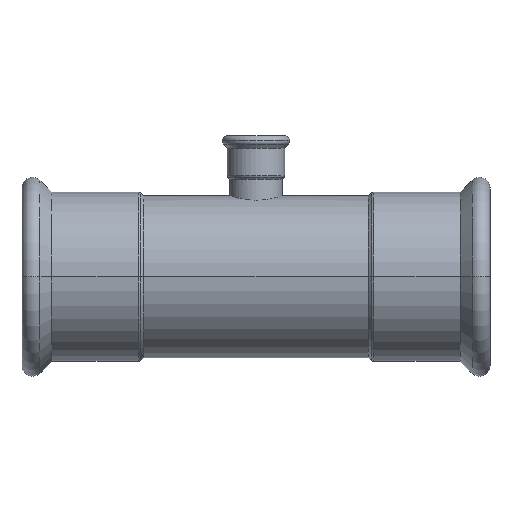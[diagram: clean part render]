
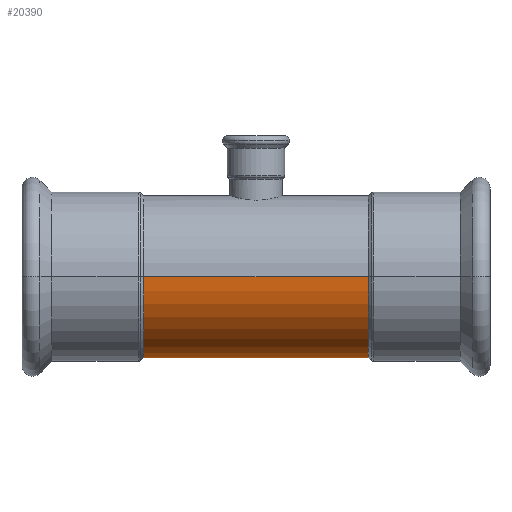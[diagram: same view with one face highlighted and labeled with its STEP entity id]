
A CAD part, front view. The second image highlights one B-rep face of the part: STEP entity #20390.
In plain terms, the highlighted cylindrical face has radius 54 mm (diameter 108 mm), a partial arc.
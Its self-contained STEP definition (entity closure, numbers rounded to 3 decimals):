
#12740=CARTESIAN_POINT('',(-213.511,128.522,0.));
#12750=DIRECTION('',(1.,0.,0.));
#12760=DIRECTION('',(0.,0.,-1.));
#12770=AXIS2_PLACEMENT_3D('',#12740,#12750,#12760);
#12780=CYLINDRICAL_SURFACE('',#12770,54.);
#20030=CARTESIAN_POINT('',(-213.511,128.522,54.));
#20040=DIRECTION('',(1.,0.,0.));
#20050=VECTOR('',#20040,1.);
#20060=LINE('',#20030,#20050);
#20070=CARTESIAN_POINT('',(-363.511,128.522,54.));
#20080=VERTEX_POINT('',#20070);
#20090=CARTESIAN_POINT('',(-213.511,128.522,54.));
#20100=VERTEX_POINT('',#20090);
#20110=EDGE_CURVE('',#20080,#20100,#20060,.T.);
#20120=ORIENTED_EDGE('',*,*,#20110,.F.);
#20130=CARTESIAN_POINT('',(-213.511,128.522,0.));
#20140=DIRECTION('',(1.,0.,0.));
#20150=DIRECTION('',(0.,0.,1.));
#20160=AXIS2_PLACEMENT_3D('',#20130,#20140,#20150);
#20170=CIRCLE('',#20160,54.);
#20180=CARTESIAN_POINT('',(-213.511,128.522,-54.));
#20190=VERTEX_POINT('',#20180);
#20200=EDGE_CURVE('',#20100,#20190,#20170,.T.);
#20210=ORIENTED_EDGE('',*,*,#20200,.F.);
#20220=CARTESIAN_POINT('',(-213.511,128.522,-54.));
#20230=DIRECTION('',(1.,0.,0.));
#20240=VECTOR('',#20230,1.);
#20250=LINE('',#20220,#20240);
#20260=CARTESIAN_POINT('',(-363.511,128.522,-54.));
#20270=VERTEX_POINT('',#20260);
#20280=EDGE_CURVE('',#20270,#20190,#20250,.T.);
#20290=ORIENTED_EDGE('',*,*,#20280,.T.);
#20300=CARTESIAN_POINT('',(-363.511,128.522,0.));
#20310=DIRECTION('',(1.,0.,0.));
#20320=DIRECTION('',(0.,0.,-1.));
#20330=AXIS2_PLACEMENT_3D('',#20300,#20310,#20320);
#20340=CIRCLE('',#20330,54.);
#20350=EDGE_CURVE('',#20080,#20270,#20340,.T.);
#20360=ORIENTED_EDGE('',*,*,#20350,.T.);
#20370=EDGE_LOOP('',(#20360,#20290,#20210,#20120));
#20380=FACE_OUTER_BOUND('',#20370,.T.);
#20390=ADVANCED_FACE('',(#20380),#12780,.T.);
